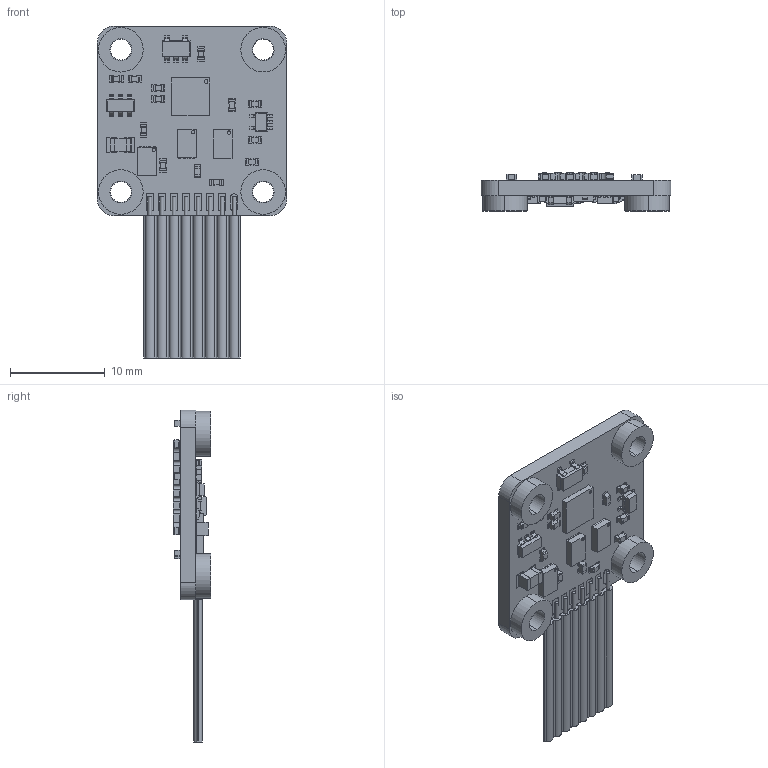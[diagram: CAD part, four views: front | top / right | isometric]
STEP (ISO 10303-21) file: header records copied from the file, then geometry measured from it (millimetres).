
FILE_DESCRIPTION (( 'STEP AP214' ), '1' );
FILE_NAME ('010482-EP300A_Bloc_422-SE.STEP', '2025-09-30T12:34:50', ( '' ), ( '' ), 'SwSTEP 2.0', 'SolidWorks 2025', '' );
FILE_SCHEMA (( 'AUTOMOTIVE_DESIGN' ));
Length unit declared in the file: millimetre
Products named in the file (16): 010482-P001A-Globtop_Défaut; SOT23-5_Défaut; 010482-PM001A-Encodeur.SLDPRT_Défaut; c0402_HYPAD_Défaut; sot23-6_Défaut; UQFN28_4x4; 010482-M300A_bloc_absolu_Défaut; Entretoise_9913-062_Défaut; DFN08_3x2_Défaut; c0805_HYPAD_Défaut; c0402_HYPAD_Flex; SC70-5_Défaut; r0402_HYPAD_Défaut; 010482-P001A-Encodeur_PCB_Défaut; Cable_plat_diff_1,27:8x15mmx2mm; 010482-EP300A_Bloc_422-SE
Assembly tree (39 placements, depth 3):
  010482-EP300A_Bloc_422-SE
    010482-M300A_bloc_absolu_Défaut
    c0402_HYPAD_Flex  x8
    010482-PM001A-Encodeur.SLDPRT_Défaut
      010482-P001A-Encodeur_PCB_Défaut
      010482-P001A-Globtop_Défaut  x2
    c0402_HYPAD_Défaut  x9
    c0805_HYPAD_Défaut
    r0402_HYPAD_Défaut  x4
    sot23-6_Défaut
    UQFN28_4x4
    DFN08_3x2_Défaut  x3
    Entretoise_9913-062_Défaut  x4
    Cable_plat_diff_1,27:8x15mmx2mm
    SC70-5_Défaut
    SOT23-5_Défaut
Bounding box: 20 x 3.98 x 35 mm (x, y, z)
Volume: 856.4 mm3; surface area: 2120 mm2
Topology: 46 solids, 46 shells, 2268 faces, 5712 edges, 3526 vertices
Faces by surface type: plane 1430, cylinder 644, sphere 144, bspline 42, cone 8
Entity records: 42526 total; most frequent: CARTESIAN_POINT 9786, ORIENTED_EDGE 6708, DIRECTION 6586, EDGE_CURVE 3354, VECTOR 2510, LINE 2510, VERTEX_POINT 2174, AXIS2_PLACEMENT_3D 2038
